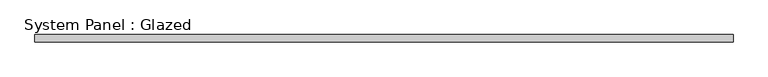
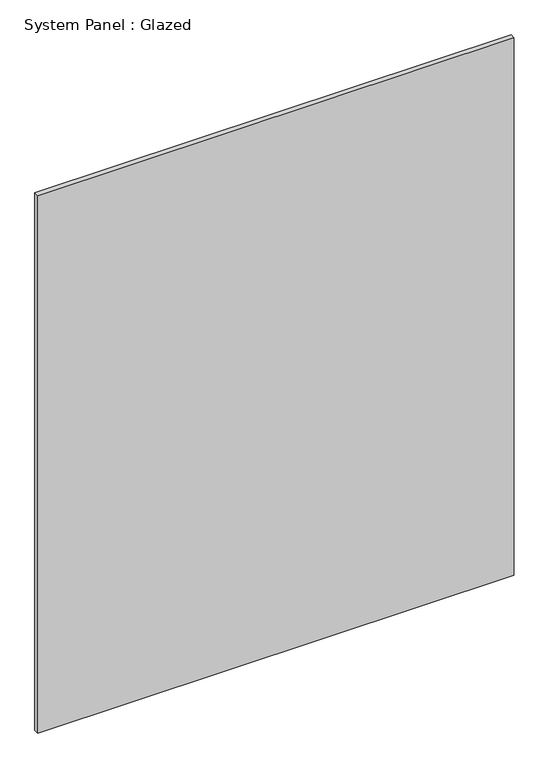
"""IFC4 building model written with IfcOpenShell, lengths in millimetres: plate geometry, System Panel : Glazed."""

from ifc_helpers import new_model, si_unit, origin, origin_with_axes, place, context, project, spatial, polyline, outline, extrude, source, transform, mapped, element, save


def system_panel_glazed_b0f97b96(model_context):
    return source(origin(), model_context, "Body", "SweptSolid", [
        extrude(outline(polyline([(1238.2499999, -44.45), (-1238.2499999, -44.45), (-1238.2499999, -19.05), (1238.2499999, -19.05), (1238.2499999, -44.45)])), origin_with_axes(), (0.0, 0.0, 1.0), 2952.75),
    ])


if __name__ == "__main__":
    model = new_model("IFC4")
    model_context = context("Model", 3, world=origin())
    ifc_project = project(units=[si_unit("LENGTHUNIT", "METRE", prefix="MILLI")], contexts=[model_context])
    site = spatial("IfcSite", under=ifc_project)
    building = spatial("IfcBuilding", under=site)
    placement = place(None, origin())
    system_panel_glazed_shape = system_panel_glazed_b0f97b96(model_context)
    element("IfcPlate", 1, ObjectType="System Panel : Glazed", at=placement, inside=building, context=model_context, shape_type="MappedRepresentation", body=[
        mapped(system_panel_glazed_shape, transform((0.0, 0.0, 0.0), x_axis=(1.0, 0.0, 0.0), y_axis=(0.0, 1.0, 0.0), z_axis=(0.0, 0.0, 1.0))),
    ])
    save(model, "model.ifc")
